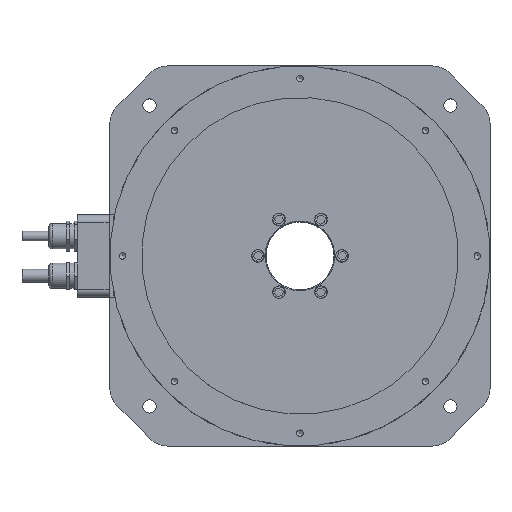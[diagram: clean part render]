
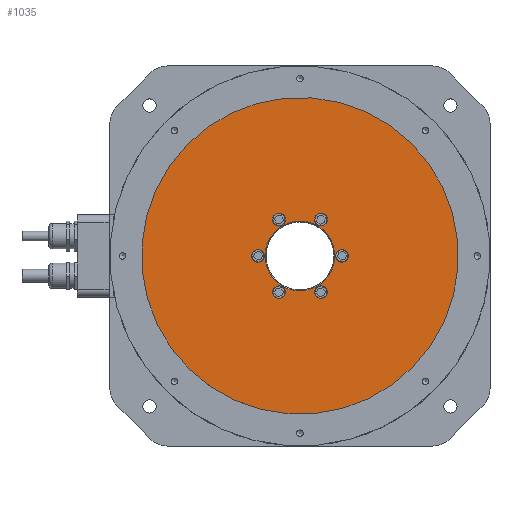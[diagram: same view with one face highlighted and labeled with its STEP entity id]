
A CAD part, top view. The second image highlights one B-rep face of the part: STEP entity #1035.
In plain terms, the highlighted planar face has unit normal (0, 0, 1).
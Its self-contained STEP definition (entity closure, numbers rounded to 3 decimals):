
#1035 = ADVANCED_FACE( '', ( #2223, #2224, #2225, #2226, #2227, #2228, #2229, #2230 ), #2231, .F. );
#2223 = FACE_BOUND( '', #7662, .T. );
#2224 = FACE_BOUND( '', #7663, .T. );
#2225 = FACE_BOUND( '', #7664, .T. );
#2226 = FACE_BOUND( '', #7665, .T. );
#2227 = FACE_BOUND( '', #7666, .T. );
#2228 = FACE_BOUND( '', #7667, .T. );
#2229 = FACE_BOUND( '', #7668, .T. );
#2230 = FACE_OUTER_BOUND( '', #7669, .T. );
#2231 = PLANE( '', #7670 );
#7662 = EDGE_LOOP( '', ( #10777 ) );
#7663 = EDGE_LOOP( '', ( #10778 ) );
#7664 = EDGE_LOOP( '', ( #10779 ) );
#7665 = EDGE_LOOP( '', ( #10780 ) );
#7666 = EDGE_LOOP( '', ( #10781 ) );
#7667 = EDGE_LOOP( '', ( #10782 ) );
#7668 = EDGE_LOOP( '', ( #10783 ) );
#7669 = EDGE_LOOP( '', ( #10784 ) );
#7670 = AXIS2_PLACEMENT_3D( '', #10785, #10786, #10787 );
#10777 = ORIENTED_EDGE( '', *, *, #11749, .T. );
#10778 = ORIENTED_EDGE( '', *, *, #11620, .T. );
#10779 = ORIENTED_EDGE( '', *, *, #11775, .T. );
#10780 = ORIENTED_EDGE( '', *, *, #11251, .T. );
#10781 = ORIENTED_EDGE( '', *, *, #11704, .T. );
#10782 = ORIENTED_EDGE( '', *, *, #11615, .T. );
#10783 = ORIENTED_EDGE( '', *, *, #11799, .T. );
#10784 = ORIENTED_EDGE( '', *, *, #11846, .F. );
#10785 = CARTESIAN_POINT( '', ( 0., 0., 43.5 ) );
#10786 = DIRECTION( '', ( 0., 0., -1. ) );
#10787 = DIRECTION( '', ( 0.963, 0.27, 0. ) );
#11251 = EDGE_CURVE( '', #12524, #12524, #12525, .T. );
#11615 = EDGE_CURVE( '', #13054, #13054, #13055, .T. );
#11620 = EDGE_CURVE( '', #13061, #13061, #13062, .T. );
#11704 = EDGE_CURVE( '', #13169, #13169, #13170, .T. );
#11749 = EDGE_CURVE( '', #13218, #13218, #13219, .T. );
#11775 = EDGE_CURVE( '', #13248, #13248, #13249, .T. );
#11799 = EDGE_CURVE( '', #13278, #13278, #13279, .T. );
#11846 = EDGE_CURVE( '', #13329, #13329, #13330, .T. );
#12524 = VERTEX_POINT( '', #14524 );
#12525 = CIRCLE( '', #14525, 4. );
#13054 = VERTEX_POINT( '', #15445 );
#13055 = CIRCLE( '', #15446, 4. );
#13061 = VERTEX_POINT( '', #15452 );
#13062 = CIRCLE( '', #15453, 4. );
#13169 = VERTEX_POINT( '', #15602 );
#13170 = CIRCLE( '', #15603, 4. );
#13218 = VERTEX_POINT( '', #15704 );
#13219 = CIRCLE( '', #15705, 4. );
#13248 = VERTEX_POINT( '', #15798 );
#13249 = CIRCLE( '', #15799, 4. );
#13278 = VERTEX_POINT( '', #15862 );
#13279 = CIRCLE( '', #15863, 22. );
#13329 = VERTEX_POINT( '', #15924 );
#13330 = CIRCLE( '', #15925, 100. );
#14524 = CARTESIAN_POINT( '', ( 9.399, 21.869, 43.5 ) );
#14525 = AXIS2_PLACEMENT_3D( '', #16424, #16425, #16426 );
#15445 = CARTESIAN_POINT( '', ( -30.351, -1.08, 43.5 ) );
#15446 = AXIS2_PLACEMENT_3D( '', #16774, #16775, #16776 );
#15452 = CARTESIAN_POINT( '', ( 9.399, -24.03, 43.5 ) );
#15453 = AXIS2_PLACEMENT_3D( '', #16780, #16781, #16782 );
#15602 = CARTESIAN_POINT( '', ( -17.101, 21.869, 43.5 ) );
#15603 = AXIS2_PLACEMENT_3D( '', #16860, #16861, #16862 );
#15704 = CARTESIAN_POINT( '', ( -17.101, -24.03, 43.5 ) );
#15705 = AXIS2_PLACEMENT_3D( '', #16893, #16894, #16895 );
#15798 = CARTESIAN_POINT( '', ( 22.649, -1.08, 43.5 ) );
#15799 = AXIS2_PLACEMENT_3D( '', #16912, #16913, #16914 );
#15862 = CARTESIAN_POINT( '', ( 21.182, 5.943, 43.5 ) );
#15863 = AXIS2_PLACEMENT_3D( '', #16935, #16936, #16937 );
#15924 = CARTESIAN_POINT( '', ( 27.012, -96.283, 43.5 ) );
#15925 = AXIS2_PLACEMENT_3D( '', #16961, #16962, #16963 );
#16424 = CARTESIAN_POINT( '', ( 13.25, 22.95, 43.5 ) );
#16425 = DIRECTION( '', ( 0., 0., -1. ) );
#16426 = DIRECTION( '', ( -0.963, -0.27, 0. ) );
#16774 = CARTESIAN_POINT( '', ( -26.5, 0., 43.5 ) );
#16775 = DIRECTION( '', ( 0., 0., -1. ) );
#16776 = DIRECTION( '', ( -0.963, -0.27, 0. ) );
#16780 = CARTESIAN_POINT( '', ( 13.25, -22.95, 43.5 ) );
#16781 = DIRECTION( '', ( 0., 0., -1. ) );
#16782 = DIRECTION( '', ( -0.963, -0.27, 0. ) );
#16860 = CARTESIAN_POINT( '', ( -13.25, 22.95, 43.5 ) );
#16861 = DIRECTION( '', ( 0., 0., -1. ) );
#16862 = DIRECTION( '', ( -0.963, -0.27, 0. ) );
#16893 = CARTESIAN_POINT( '', ( -13.25, -22.95, 43.5 ) );
#16894 = DIRECTION( '', ( 0., 0., -1. ) );
#16895 = DIRECTION( '', ( -0.963, -0.27, 0. ) );
#16912 = CARTESIAN_POINT( '', ( 26.5, 0., 43.5 ) );
#16913 = DIRECTION( '', ( 0., 0., -1. ) );
#16914 = DIRECTION( '', ( -0.963, -0.27, 0. ) );
#16935 = CARTESIAN_POINT( '', ( 0., 0., 43.5 ) );
#16936 = DIRECTION( '', ( 0., 0., -1. ) );
#16937 = DIRECTION( '', ( 0.963, 0.27, 0. ) );
#16961 = CARTESIAN_POINT( '', ( 0., 0., 43.5 ) );
#16962 = DIRECTION( '', ( 0., 0., -1. ) );
#16963 = DIRECTION( '', ( 0.27, -0.963, 0. ) );
